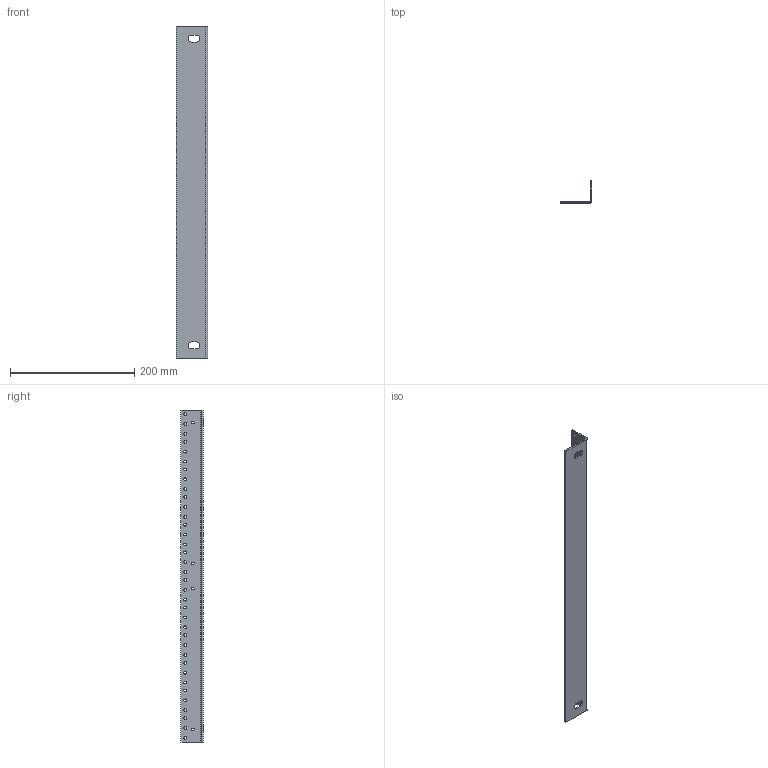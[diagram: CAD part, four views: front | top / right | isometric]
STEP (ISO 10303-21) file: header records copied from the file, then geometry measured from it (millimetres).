
FILE_DESCRIPTION(/* description */ ('Unknown'),/* implementation_level */ '2;1');
FILE_NAME(/* name */ 'H1TRR12U24BK',/* time_stamp */ '2021-03-04T12:53:05-05:00',/* author */ ('Unknown'),/* organization */ ('Unknown'),/* preprocessor_version */ 'ST-DEVELOPER v16.7',/* originating_system */ 'Solid Edge',/* authorisation */ 'Unknown');
FILE_SCHEMA (('AUTOMOTIVE_DESIGN {1 0 10303 214 3 1 1}'));
Length unit declared in the file: millimetre
Products named in the file (1): COM57448-12LB
Bounding box: 50.8 x 35.41 x 534.16 mm (x, y, z)
Volume: 104130.7 mm3; surface area: 91306.8 mm2
Topology: 1 solids, 1 shells, 181 faces, 532 edges, 368 vertices
Faces by surface type: plane 104, cylinder 66, bspline 11
Full cylindrical faces by diameter (mm): 4.496 x40
Entity records: 6110 total; most frequent: CARTESIAN_POINT 1581, ORIENTED_EDGE 904, DIRECTION 830, EDGE_CURVE 452, VERTEX_POINT 328, EDGE_LOOP 320, FACE_BOUND 320, AXIS2_PLACEMENT_3D 303
